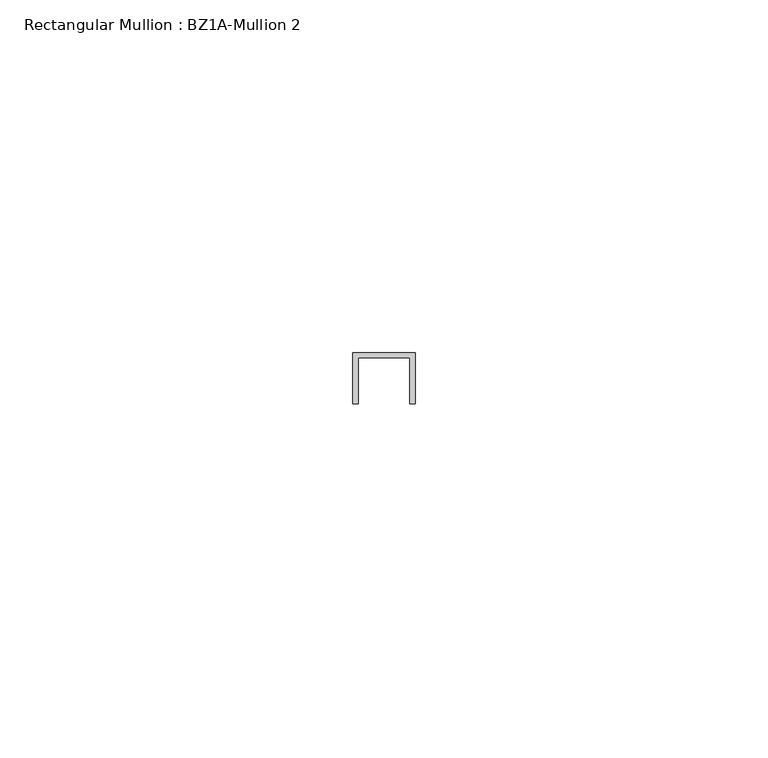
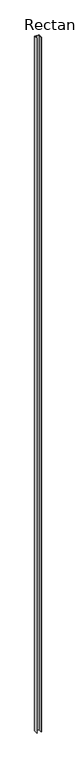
"""IFC4 building model written with IfcOpenShell, lengths in millimetres: member geometry, Rectangular Mullion : BZ1A-Mullion 2."""

from ifc_helpers import new_model, si_unit, frame, origin, place, context, project, spatial, polyline, outline, extrude, source, transform, mapped, element, save


def rectangular_mullion_bz1a_mullion_2_91d4473b(model_context):
    return source(origin(), model_context, "Body", "SweptSolid", [
        extrude(outline(polyline([(0.0, 3.484375), (-3.6415876, 3.484375), (-3.6415876, -3.0), (-4.463613, -3.0), (-4.463613, 4.25), (0.0, 4.25), (4.463613, 4.25), (4.463613, -3.0), (3.6415876, -3.0), (3.6415876, 3.484375), (0.0, 3.484375)])), frame((0.0, 0.0, -1457.28125), z_axis=(0.0, 0.0, 1.0), x_axis=(1.0, 0.0, 0.0)), (0.0, 0.0, 1.0), 1457.28125),
    ])


if __name__ == "__main__":
    model = new_model("IFC4")
    model_context = context("Model", 3, world=origin())
    ifc_project = project(units=[si_unit("LENGTHUNIT", "METRE", prefix="MILLI")], contexts=[model_context])
    site = spatial("IfcSite", under=ifc_project)
    building = spatial("IfcBuilding", under=site)
    placement = place(None, origin())
    rectangular_mullion_bz1a_mullion_2_shape = rectangular_mullion_bz1a_mullion_2_91d4473b(model_context)
    element("IfcMember", 1, ObjectType="Rectangular Mullion : BZ1A-Mullion 2", at=placement, inside=building, context=model_context, shape_type="MappedRepresentation", body=[
        mapped(rectangular_mullion_bz1a_mullion_2_shape, transform((0.0, 0.0, 0.0), x_axis=(1.0, 0.0, 0.0), y_axis=(0.0, 1.0, 0.0), z_axis=(0.0, 0.0, 1.0))),
    ])
    save(model, "model.ifc")
